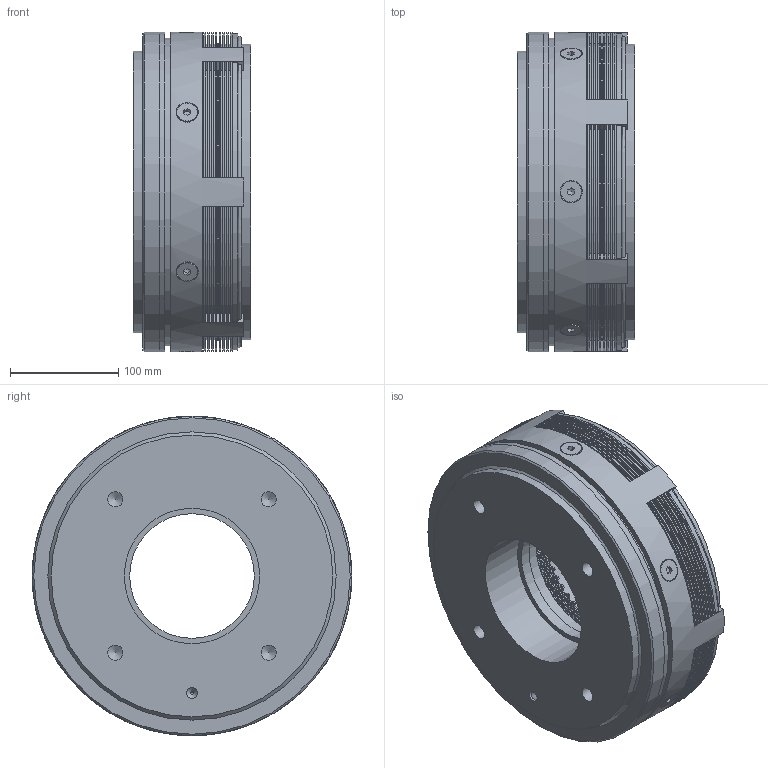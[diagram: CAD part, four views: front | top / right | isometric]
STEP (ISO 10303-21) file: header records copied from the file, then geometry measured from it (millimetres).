
FILE_DESCRIPTION(/* description */ (''),/* implementation_level */ '2;1');
FILE_NAME(/* name */ 'X:\INVENTOR\DISEGNI\05_Friz_Elettmag-Lam\05_02 ECF\05_02_295_01 ECF295\05_02_295_01 ECF295@STEP.stp',/* time_stamp */ '2023-03-06T14:09:23+01:00',/* author */ ('alessio'),/* organization */ (''),/* preprocessor_version */ 'ST-DEVELOPER v18.1',/* originating_system */ 'Autodesk Inventor 2021',/* authorisation */ '');
FILE_SCHEMA (('AUTOMOTIVE_DESIGN { 1 0 10303 214 3 1 1 }'));
Products named in the file (1): 05_02_295_01 ECF295
Bounding box: 108 x 295 x 295 mm (x, y, z)
Volume: 5074284.5 mm3; surface area: 1537028 mm2
Topology: 17 solids, 30 shells, 2962 faces, 8714 edges, 5789 vertices
Faces by surface type: cylinder 2440, plane 482, cone 39, torus 1
Full cylindrical faces by diameter (mm): 2.5 x1, 6 x2, 8.376 x6, 10 x7, 10.5 x6, 13.835 x4, 19.22 x6, 20.5 x6, 115 x1, 122 x1, 125 x1, 158 x1, 192 x1, 205 x1, 231 x1, 240 x1, 260 x1, 266 x1, 272 x1, 273 x1, 284 x1, 295 x3
Entity records: 106028 total; most frequent: DIRECTION 19379, CARTESIAN_POINT 19139, ORIENTED_EDGE 17420, EDGE_CURVE 8710, AXIS2_PLACEMENT_3D 7872, VERTEX_POINT 5801, CIRCLE 4908, LINE 3635
